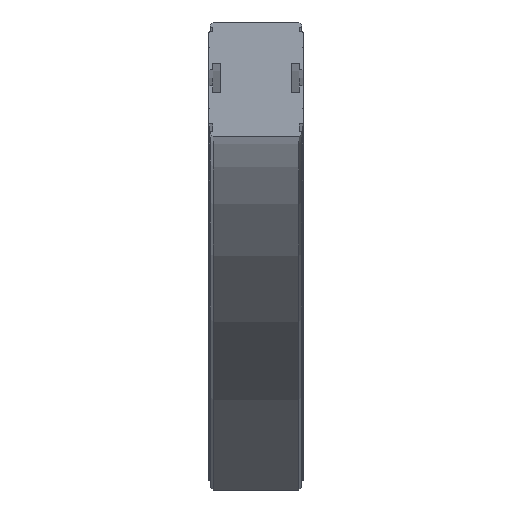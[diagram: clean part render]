
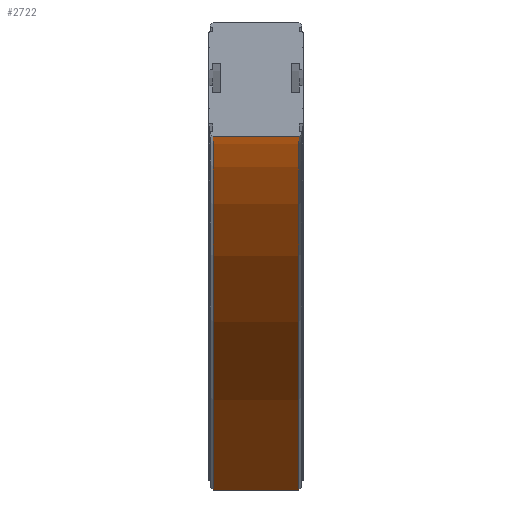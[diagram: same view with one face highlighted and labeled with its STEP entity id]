
A CAD part, left-side view. The second image highlights one B-rep face of the part: STEP entity #2722.
In plain terms, the highlighted cylindrical face has radius 820 mm (diameter 1640 mm), a partial arc.
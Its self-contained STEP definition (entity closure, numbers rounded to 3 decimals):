
#2664=CARTESIAN_POINT('',(579.828,29.,-318.172));
#2665=VERTEX_POINT('',#2664);
#2672=CARTESIAN_POINT('',(0.0,29.,-78.));
#2673=VERTEX_POINT('',#2672);
#2674=CARTESIAN_POINT('',(0.0,29.,-898.0));
#2675=DIRECTION('',(0.0,1.0,0.0));
#2676=DIRECTION('',(0.0,0.0,1.0));
#2677=AXIS2_PLACEMENT_3D('',#2674,#2675,#2676);
#2678=CIRCLE('',#2677,820.);
#2679=EDGE_CURVE('',#2673,#2665,#2678,.T.);
#2691=CARTESIAN_POINT('',(0.0,0.,-898.0));
#2692=DIRECTION('',(0.0,1.0,0.0));
#2693=DIRECTION('',(0.0,0.0,1.0));
#2694=AXIS2_PLACEMENT_3D('',#2691,#2692,#2693);
#2695=CYLINDRICAL_SURFACE('',#2694,820.);
#2696=CARTESIAN_POINT('',(579.828,-29.,-318.172));
#2697=VERTEX_POINT('',#2696);
#2698=CARTESIAN_POINT('',(579.828,29.,-318.172));
#2699=DIRECTION('',(0.0,-1.0,0.0));
#2700=VECTOR('',#2699,58.);
#2701=LINE('',#2698,#2700);
#2702=EDGE_CURVE('',#2665,#2697,#2701,.T.);
#2703=ORIENTED_EDGE('',*,*,#2702,.T.);
#2704=CARTESIAN_POINT('',(0.0,-29.,-78.));
#2705=VERTEX_POINT('',#2704);
#2706=CARTESIAN_POINT('',(0.0,-29.,-898.0));
#2707=DIRECTION('',(0.0,1.0,0.0));
#2708=DIRECTION('',(0.0,0.0,1.0));
#2709=AXIS2_PLACEMENT_3D('',#2706,#2707,#2708);
#2710=CIRCLE('',#2709,820.);
#2711=EDGE_CURVE('',#2705,#2697,#2710,.T.);
#2712=ORIENTED_EDGE('',*,*,#2711,.F.);
#2713=CARTESIAN_POINT('',(0.0,-29.,-78.));
#2714=DIRECTION('',(0.0,1.0,0.0));
#2715=VECTOR('',#2714,58.);
#2716=LINE('',#2713,#2715);
#2717=EDGE_CURVE('',#2705,#2673,#2716,.T.);
#2718=ORIENTED_EDGE('',*,*,#2717,.T.);
#2719=ORIENTED_EDGE('',*,*,#2679,.T.);
#2720=EDGE_LOOP('',(#2703,#2712,#2718,#2719));
#2721=FACE_OUTER_BOUND('',#2720,.T.);
#2722=ADVANCED_FACE('',(#2721),#2695,.F.);
